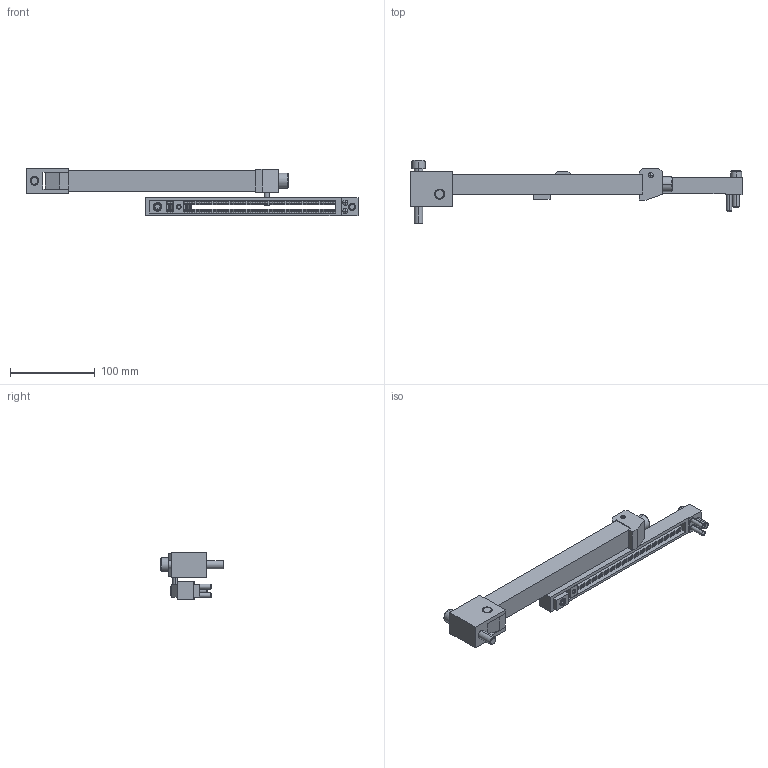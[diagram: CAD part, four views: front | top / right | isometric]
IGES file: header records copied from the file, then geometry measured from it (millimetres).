
Start section: START RECORD GO HERE.
Global section: file name: BOX250R.igs; native system: DASSAULT SYSTEMES CATIA V5 R20 - www.3ds.com; preprocessor: CATIA Version 5 Release 20 ; author: Utente; organization: NB04-ASUS; date: 20210221.175351; units: millimetre
Bounding box: 391 x 75 x 56.5 mm (x, y, z)
Surface area: 96262.2 mm2 (no closed solid volume)
Topology: 0 solids, 0 shells, 1229 faces, 7232 edges, 7206 vertices
Faces by surface type: plane 1107, revolution 122
